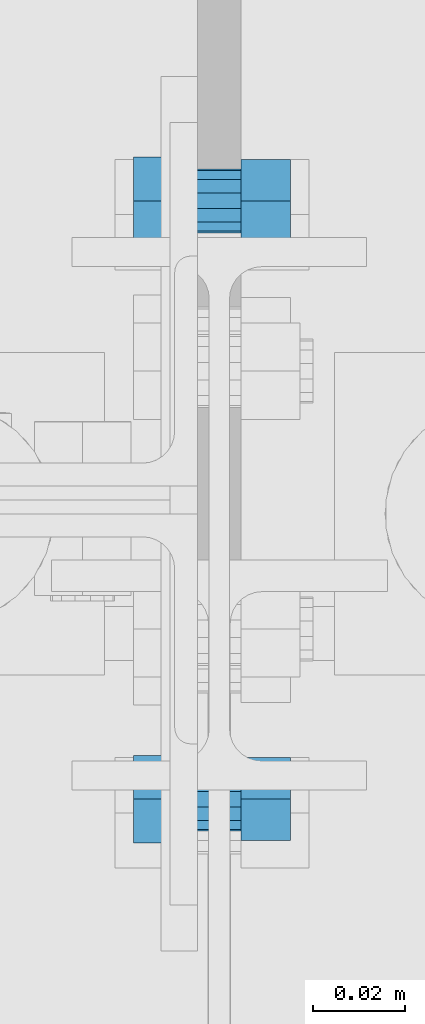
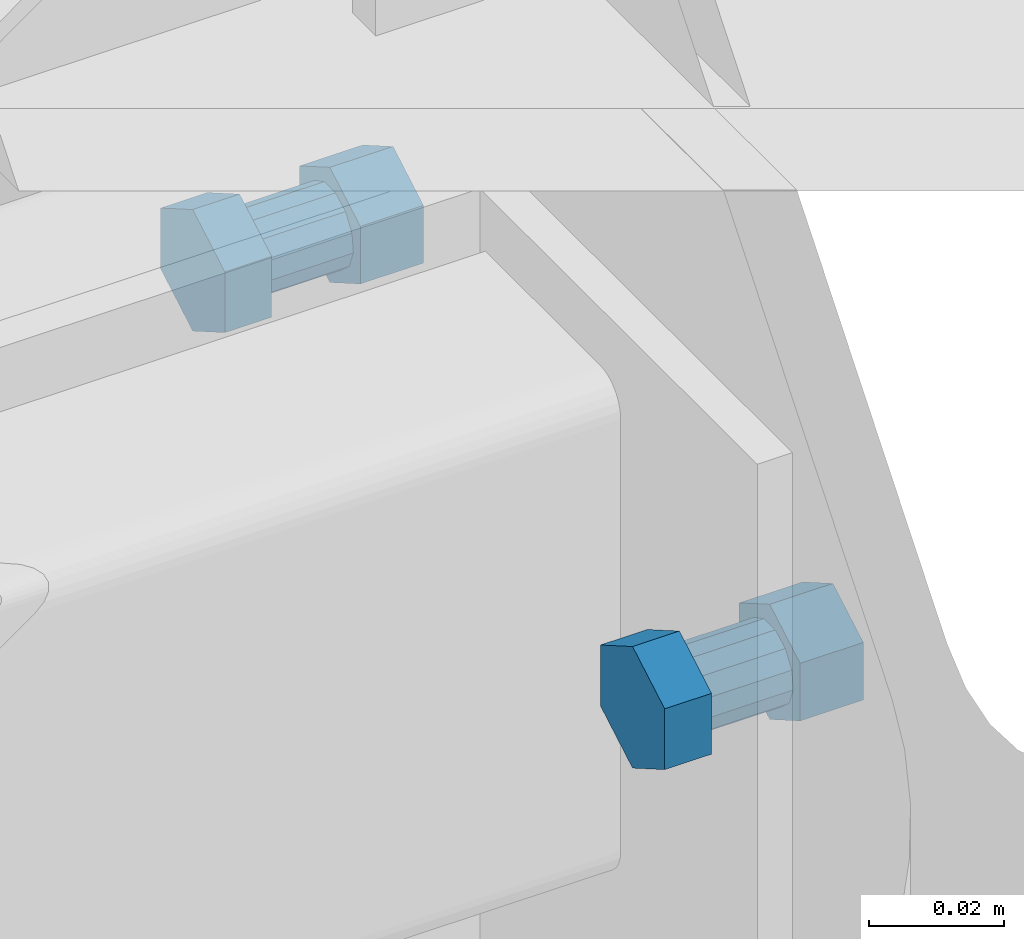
# One storey, part 9 of 18: 1 mechanical fastener.
"""IFC2X3 building model written with IfcOpenShell, lengths in millimetres."""

from ifc_helpers import new_model, si_unit, frame, origin_with_axes, place, context, subcontext, project, spatial, faceted_brep, source, transform, mapped, type_object, element, save


model = new_model("IFC2X3")

# Units and contexts
model_context = context("Model", 3, precision=1e-05, world=origin_with_axes())
body_context = subcontext(model_context, "Body", "Model", "MODEL_VIEW")
ifc_project = project(units=[si_unit("LENGTHUNIT", "METRE", prefix="MILLI"), si_unit("AREAUNIT", "SQUARE_METRE"), si_unit("VOLUMEUNIT", "CUBIC_METRE"), si_unit("MASSUNIT", "GRAM", prefix="KILO"), si_unit("TIMEUNIT", "SECOND"), si_unit("PLANEANGLEUNIT", "RADIAN"), si_unit("SOLIDANGLEUNIT", "STERADIAN"), si_unit("THERMODYNAMICTEMPERATUREUNIT", "DEGREE_CELSIUS"), si_unit("LUMINOUSINTENSITYUNIT", "LUMEN")], contexts=[model_context])

# Site, building, storey
site_placement = place(None, origin_with_axes())
site = spatial("IfcSite", under=ifc_project, at=site_placement, Name="Undefined", CompositionType="ELEMENT")
building_placement = place(site_placement, origin_with_axes())
building = spatial("IfcBuilding", under=site, at=building_placement, Name="Undefined", CompositionType="ELEMENT")
storey_placement = place(building_placement, origin_with_axes())
storey = spatial("IfcBuildingStorey", under=building, at=storey_placement, Name="Undefined", CompositionType="ELEMENT", Elevation=0.0)

# Mechanical fastener
mechanical_fastener_type = type_object("IfcMechanicalFastenerType", Name="Bolt assembly")
shared_shape_1 = source(origin_with_axes(), body_context, "Body", "Brep", [
    faceted_brep([(10.96965511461, -18.7000000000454, 0.0), (5.484827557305, -18.7000000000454, 9.50000000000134), (-5.484827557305, -18.7000000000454, 9.50000000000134), (-10.96965511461, -18.7000000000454, 0.0), (-5.484827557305, -18.7000000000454, -9.50000000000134), (5.484827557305, -18.7000000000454, -9.50000000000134), (5.484827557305, -10.7000000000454, -9.50000000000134), (-5.484827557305, -10.7000000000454, -9.50000000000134), (-10.96965511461, -10.7000000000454, 0.0), (-5.484827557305, -10.7000000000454, 9.50000000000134), (5.484827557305, -10.7000000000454, 9.50000000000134), (10.96965511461, -10.7000000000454, 0.0), (6.0, -10.7000000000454, 0.0), (5.31273615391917, -10.7000000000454, 2.78833903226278), (3.40838848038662, -10.7000000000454, 4.93790319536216), (0.723220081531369, -10.7000000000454, 5.95625324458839), (-2.12762932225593, -10.7000000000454, 5.61009745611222), (-4.49106448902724, -10.7000000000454, 3.97873594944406), (-5.82565090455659, -10.7000000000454, 1.43589398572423), (-5.82565090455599, -10.7000000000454, -1.43589398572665), (-4.49106448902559, -10.7000000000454, -3.97873594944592), (-2.12762932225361, -10.7000000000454, -5.6100974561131), (0.723220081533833, -10.7000000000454, -5.95625324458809), (3.40838848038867, -10.7000000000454, -4.93790319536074), (3.40838848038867, 14.2999999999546, -4.93790319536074), (0.723220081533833, 14.2999999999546, -5.95625324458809), (-2.12762932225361, 14.2999999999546, -5.6100974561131), (-4.49106448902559, 14.2999999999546, -3.97873594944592), (-5.82565090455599, 14.2999999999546, -1.43589398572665), (-5.82565090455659, 14.2999999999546, 1.43589398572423), (-4.49106448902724, 14.2999999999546, 3.97873594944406), (-2.12762932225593, 14.2999999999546, 5.61009745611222), (0.723220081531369, 14.2999999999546, 5.95625324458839), (3.40838848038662, 14.2999999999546, 4.93790319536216), (5.31273615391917, 14.2999999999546, 2.78833903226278), (6.0, 14.2999999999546, 0.0), (10.39230484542, 4.7000095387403, 0.0), (5.19615242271, 4.7000095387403, 9.00000000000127), (-5.19615242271, 4.7000095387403, 9.00000000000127), (-10.39230484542, 4.7000095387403, 0.0), (-5.19615242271, 4.7000095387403, -9.00000000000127), (5.19615242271, 4.7000095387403, -9.00000000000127), (5.19615242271, 15.5000097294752, -9.00000000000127), (-5.19615242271, 15.5000097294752, -9.00000000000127), (-10.39230484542, 15.5000097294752, 0.0), (-5.19615242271, 15.5000097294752, 9.00000000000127), (5.19615242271, 15.5000097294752, 9.00000000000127), (10.39230484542, 15.5000097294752, 0.0)], [[[0, 1, 2, 3, 4, 5]], [[6, 7, 8, 9, 10, 11]], [[0, 11, 10, 1]], [[1, 10, 9, 2]], [[2, 9, 8, 3]], [[3, 8, 7, 4]], [[4, 7, 6, 5]], [[5, 6, 11, 0]], [[12, 13, 14, 15, 16, 17, 18, 19, 20, 21, 22, 23]], [[24, 25, 26, 27, 28, 29, 30, 31, 32, 33, 34, 35]], [[12, 35, 34, 13]], [[13, 34, 33, 14]], [[14, 33, 32, 15]], [[15, 32, 31, 16]], [[16, 31, 30, 17]], [[17, 30, 29, 18]], [[18, 29, 28, 19]], [[19, 28, 27, 20]], [[20, 27, 26, 21]], [[21, 26, 25, 22]], [[22, 25, 24, 23]], [[23, 24, 35, 12]], [[36, 37, 38, 39, 40, 41]], [[42, 43, 44, 45, 46, 47]], [[36, 47, 46, 37]], [[37, 46, 45, 38]], [[38, 45, 44, 39]], [[39, 44, 43, 40]], [[40, 43, 42, 41]], [[41, 42, 47, 36]]]),
    faceted_brep([(7.0, -4.7999900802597, 0.0), (6.19819217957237, -4.7999900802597, 3.25306220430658), (3.97645322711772, -4.7999900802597, 5.76088706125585), (0.843756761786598, -4.7999900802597, 6.94896211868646), (-2.48223420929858, -4.7999900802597, 6.54511369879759), (-5.23957523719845, -4.7999900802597, 4.64185860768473), (-6.79659272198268, -4.7999900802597, 1.67520965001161), (-6.79659272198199, -4.7999900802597, -1.67520965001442), (-5.23957523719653, -4.7999900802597, -4.6418586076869), (-2.48223420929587, -4.7999900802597, -6.54511369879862), (0.843756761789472, -4.7999900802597, -6.94896211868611), (3.97645322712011, -4.7999900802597, -5.7608870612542), (3.97645322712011, 4.7000095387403, -5.7608870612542), (0.843756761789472, 4.7000095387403, -6.94896211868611), (-2.48223420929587, 4.7000095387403, -6.54511369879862), (-5.23957523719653, 4.7000095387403, -4.6418586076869), (-6.79659272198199, 4.7000095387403, -1.67520965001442), (-6.79659272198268, 4.7000095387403, 1.67520965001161), (-5.23957523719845, 4.7000095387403, 4.64185860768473), (-2.48223420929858, 4.7000095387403, 6.54511369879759), (0.843756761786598, 4.7000095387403, 6.94896211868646), (3.97645322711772, 4.7000095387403, 5.76088706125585), (6.19819217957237, 4.7000095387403, 3.25306220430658), (7.0, 4.7000095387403, 0.0), (7.0, -10.6000000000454, 0.0), (6.19819217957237, -10.6000000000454, 3.25306220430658), (3.97645322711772, -10.6000000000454, 5.76088706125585), (0.843756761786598, -10.6000000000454, 6.94896211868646), (-2.48223420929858, -10.6000000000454, 6.54511369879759), (-5.23957523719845, -10.6000000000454, 4.64185860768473), (-6.79659272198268, -10.6000000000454, 1.67520965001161), (-6.79659272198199, -10.6000000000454, -1.67520965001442), (-5.23957523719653, -10.6000000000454, -4.6418586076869), (-2.48223420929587, -10.6000000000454, -6.54511369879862), (0.843756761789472, -10.6000000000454, -6.94896211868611), (3.97645322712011, -10.6000000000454, -5.7608870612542), (3.97645322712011, -4.60000000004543, -5.7608870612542), (0.843756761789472, -4.60000000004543, -6.94896211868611), (-2.48223420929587, -4.60000000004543, -6.54511369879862), (-5.23957523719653, -4.60000000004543, -4.6418586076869), (-6.79659272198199, -4.60000000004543, -1.67520965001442), (-6.79659272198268, -4.60000000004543, 1.67520965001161), (-5.23957523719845, -4.60000000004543, 4.64185860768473), (-2.48223420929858, -4.60000000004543, 6.54511369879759), (0.843756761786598, -4.60000000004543, 6.94896211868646), (3.97645322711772, -4.60000000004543, 5.76088706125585), (6.19819217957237, -4.60000000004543, 3.25306220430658), (7.0, -4.60000000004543, 0.0)], [[[0, 1, 2, 3, 4, 5, 6, 7, 8, 9, 10, 11]], [[12, 13, 14, 15, 16, 17, 18, 19, 20, 21, 22, 23]], [[0, 23, 22, 1]], [[1, 22, 21, 2]], [[2, 21, 20, 3]], [[3, 20, 19, 4]], [[4, 19, 18, 5]], [[5, 18, 17, 6]], [[6, 17, 16, 7]], [[7, 16, 15, 8]], [[8, 15, 14, 9]], [[9, 14, 13, 10]], [[10, 13, 12, 11]], [[11, 12, 23, 0]], [[24, 25, 26, 27, 28, 29, 30, 31, 32, 33, 34, 35]], [[36, 37, 38, 39, 40, 41, 42, 43, 44, 45, 46, 47]], [[24, 47, 46, 25]], [[25, 46, 45, 26]], [[26, 45, 44, 27]], [[27, 44, 43, 28]], [[28, 43, 42, 29]], [[29, 42, 41, 30]], [[30, 41, 40, 31]], [[31, 40, 39, 32]], [[32, 39, 38, 33]], [[33, 38, 37, 34]], [[34, 37, 36, 35]], [[35, 36, 47, 24]]]),
])
shared_shape_2 = source(origin_with_axes(), body_context, "Body", "Brep", [
    faceted_brep([(10.96965511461, -18.7000000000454, 0.0), (5.484827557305, -18.7000000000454, 9.50000000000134), (-5.484827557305, -18.7000000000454, 9.50000000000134), (-10.96965511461, -18.7000000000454, 0.0), (-5.484827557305, -18.7000000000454, -9.50000000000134), (5.484827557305, -18.7000000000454, -9.50000000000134), (5.484827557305, -10.7000000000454, -9.50000000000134), (-5.484827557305, -10.7000000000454, -9.50000000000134), (-10.96965511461, -10.7000000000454, 0.0), (-5.484827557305, -10.7000000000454, 9.50000000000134), (5.484827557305, -10.7000000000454, 9.50000000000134), (10.96965511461, -10.7000000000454, 0.0), (6.0, -10.7000000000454, 0.0), (5.31273615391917, -10.7000000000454, 2.78833903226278), (3.40838848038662, -10.7000000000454, 4.93790319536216), (0.723220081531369, -10.7000000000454, 5.95625324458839), (-2.12762932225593, -10.7000000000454, 5.61009745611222), (-4.49106448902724, -10.7000000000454, 3.97873594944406), (-5.82565090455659, -10.7000000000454, 1.43589398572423), (-5.82565090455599, -10.7000000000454, -1.43589398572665), (-4.49106448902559, -10.7000000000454, -3.97873594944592), (-2.12762932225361, -10.7000000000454, -5.6100974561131), (0.723220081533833, -10.7000000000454, -5.95625324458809), (3.40838848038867, -10.7000000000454, -4.93790319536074), (3.40838848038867, 14.2999999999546, -4.93790319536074), (0.723220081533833, 14.2999999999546, -5.95625324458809), (-2.12762932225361, 14.2999999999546, -5.6100974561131), (-4.49106448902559, 14.2999999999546, -3.97873594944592), (-5.82565090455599, 14.2999999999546, -1.43589398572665), (-5.82565090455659, 14.2999999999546, 1.43589398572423), (-4.49106448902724, 14.2999999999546, 3.97873594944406), (-2.12762932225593, 14.2999999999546, 5.61009745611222), (0.723220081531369, 14.2999999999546, 5.95625324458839), (3.40838848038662, 14.2999999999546, 4.93790319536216), (5.31273615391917, 14.2999999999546, 2.78833903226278), (6.0, 14.2999999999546, 0.0), (10.39230484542, 4.7000095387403, 0.0), (5.19615242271, 4.7000095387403, 9.00000000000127), (-5.19615242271, 4.7000095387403, 9.00000000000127), (-10.39230484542, 4.7000095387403, 0.0), (-5.19615242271, 4.7000095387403, -9.00000000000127), (5.19615242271, 4.7000095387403, -9.00000000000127), (5.19615242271, 15.5000097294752, -9.00000000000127), (-5.19615242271, 15.5000097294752, -9.00000000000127), (-10.39230484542, 15.5000097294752, 0.0), (-5.19615242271, 15.5000097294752, 9.00000000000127), (5.19615242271, 15.5000097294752, 9.00000000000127), (10.39230484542, 15.5000097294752, 0.0)], [[[0, 1, 2, 3, 4, 5]], [[6, 7, 8, 9, 10, 11]], [[0, 11, 10, 1]], [[1, 10, 9, 2]], [[2, 9, 8, 3]], [[3, 8, 7, 4]], [[4, 7, 6, 5]], [[5, 6, 11, 0]], [[12, 13, 14, 15, 16, 17, 18, 19, 20, 21, 22, 23]], [[24, 25, 26, 27, 28, 29, 30, 31, 32, 33, 34, 35]], [[12, 35, 34, 13]], [[13, 34, 33, 14]], [[14, 33, 32, 15]], [[15, 32, 31, 16]], [[16, 31, 30, 17]], [[17, 30, 29, 18]], [[18, 29, 28, 19]], [[19, 28, 27, 20]], [[20, 27, 26, 21]], [[21, 26, 25, 22]], [[22, 25, 24, 23]], [[23, 24, 35, 12]], [[36, 37, 38, 39, 40, 41]], [[42, 43, 44, 45, 46, 47]], [[36, 47, 46, 37]], [[37, 46, 45, 38]], [[38, 45, 44, 39]], [[39, 44, 43, 40]], [[40, 43, 42, 41]], [[41, 42, 47, 36]]]),
    faceted_brep([(7.0, -4.7999900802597, 0.0), (6.19819217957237, -4.7999900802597, 3.25306220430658), (3.97645322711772, -4.7999900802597, 5.76088706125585), (0.843756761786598, -4.7999900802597, 6.94896211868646), (-2.48223420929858, -4.7999900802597, 6.54511369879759), (-5.23957523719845, -4.7999900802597, 4.64185860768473), (-6.79659272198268, -4.7999900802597, 1.67520965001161), (-6.79659272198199, -4.7999900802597, -1.67520965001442), (-5.23957523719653, -4.7999900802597, -4.6418586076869), (-2.48223420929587, -4.7999900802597, -6.54511369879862), (0.843756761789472, -4.7999900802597, -6.94896211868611), (3.97645322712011, -4.7999900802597, -5.7608870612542), (3.97645322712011, 4.7000095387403, -5.7608870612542), (0.843756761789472, 4.7000095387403, -6.94896211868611), (-2.48223420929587, 4.7000095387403, -6.54511369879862), (-5.23957523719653, 4.7000095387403, -4.6418586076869), (-6.79659272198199, 4.7000095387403, -1.67520965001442), (-6.79659272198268, 4.7000095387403, 1.67520965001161), (-5.23957523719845, 4.7000095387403, 4.64185860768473), (-2.48223420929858, 4.7000095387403, 6.54511369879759), (0.843756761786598, 4.7000095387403, 6.94896211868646), (3.97645322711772, 4.7000095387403, 5.76088706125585), (6.19819217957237, 4.7000095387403, 3.25306220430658), (7.0, 4.7000095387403, 0.0), (7.0, -10.6000000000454, 0.0), (6.19819217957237, -10.6000000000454, 3.25306220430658), (3.97645322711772, -10.6000000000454, 5.76088706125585), (0.843756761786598, -10.6000000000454, 6.94896211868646), (-2.48223420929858, -10.6000000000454, 6.54511369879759), (-5.23957523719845, -10.6000000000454, 4.64185860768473), (-6.79659272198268, -10.6000000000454, 1.67520965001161), (-6.79659272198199, -10.6000000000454, -1.67520965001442), (-5.23957523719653, -10.6000000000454, -4.6418586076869), (-2.48223420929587, -10.6000000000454, -6.54511369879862), (0.843756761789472, -10.6000000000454, -6.94896211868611), (3.97645322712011, -10.6000000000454, -5.7608870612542), (3.97645322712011, -4.60000000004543, -5.7608870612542), (0.843756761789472, -4.60000000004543, -6.94896211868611), (-2.48223420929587, -4.60000000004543, -6.54511369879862), (-5.23957523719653, -4.60000000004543, -4.6418586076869), (-6.79659272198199, -4.60000000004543, -1.67520965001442), (-6.79659272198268, -4.60000000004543, 1.67520965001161), (-5.23957523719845, -4.60000000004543, 4.64185860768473), (-2.48223420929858, -4.60000000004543, 6.54511369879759), (0.843756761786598, -4.60000000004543, 6.94896211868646), (3.97645322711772, -4.60000000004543, 5.76088706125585), (6.19819217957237, -4.60000000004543, 3.25306220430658), (7.0, -4.60000000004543, 0.0)], [[[0, 1, 2, 3, 4, 5, 6, 7, 8, 9, 10, 11]], [[12, 13, 14, 15, 16, 17, 18, 19, 20, 21, 22, 23]], [[0, 23, 22, 1]], [[1, 22, 21, 2]], [[2, 21, 20, 3]], [[3, 20, 19, 4]], [[4, 19, 18, 5]], [[5, 18, 17, 6]], [[6, 17, 16, 7]], [[7, 16, 15, 8]], [[8, 15, 14, 9]], [[9, 14, 13, 10]], [[10, 13, 12, 11]], [[11, 12, 23, 0]], [[24, 25, 26, 27, 28, 29, 30, 31, 32, 33, 34, 35]], [[36, 37, 38, 39, 40, 41, 42, 43, 44, 45, 46, 47]], [[24, 47, 46, 25]], [[25, 46, 45, 26]], [[26, 45, 44, 27]], [[27, 44, 43, 28]], [[28, 43, 42, 29]], [[29, 42, 41, 30]], [[30, 41, 40, 31]], [[31, 40, 39, 32]], [[32, 39, 38, 33]], [[33, 38, 37, 34]], [[34, 37, 36, 35]], [[35, 36, 47, 24]]]),
])
mechanical_fastener_placement = place(storey_placement, frame((-9.7282864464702e-06, -71.9999991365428, 5413.9994118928), z_axis=(0.0, -1.0, -6.7762635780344e-21), x_axis=(2.350712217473e-13, -3.38692037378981e-13, -1.0)))
element("IfcMechanicalFastener", 1, at=mechanical_fastener_placement, inside=storey, type_object=mechanical_fastener_type, Name="Bolt assembly", NominalDiameter=12.0, NominalLength=30.0, context=body_context, shape_type="MappedRepresentation", body=[
    mapped(shared_shape_1, transform((0.0, 0.0, -65.0))),
    mapped(shared_shape_2, transform((0.0, 0.0, 65.0))),
])

save(model, "model.ifc")
